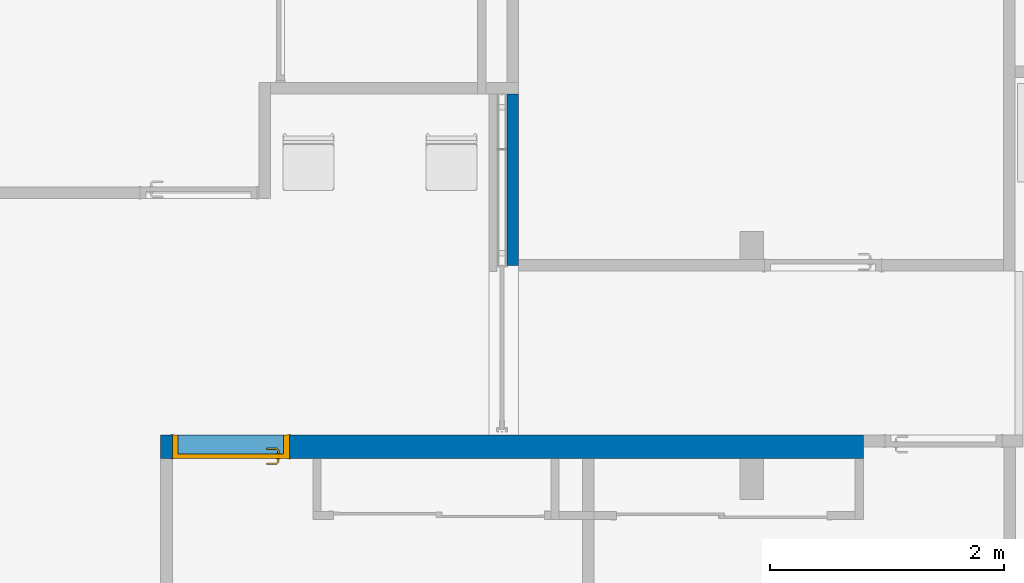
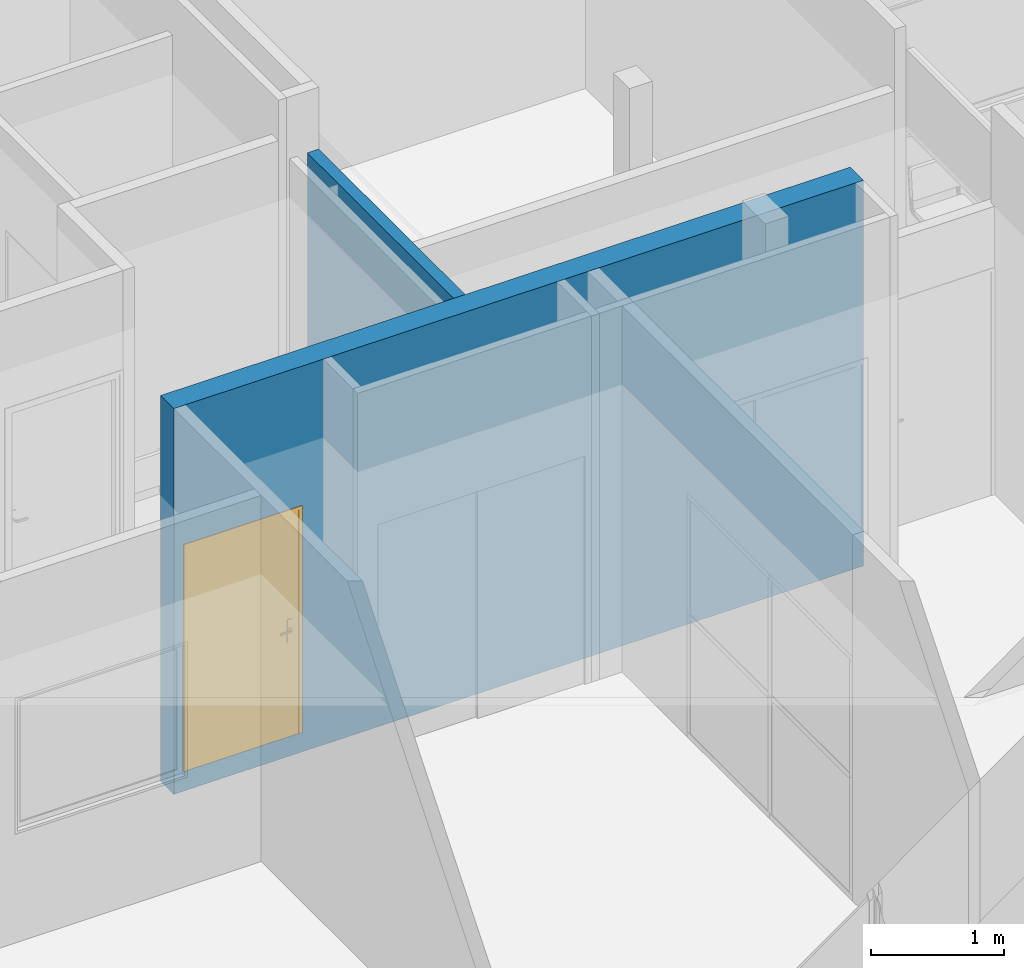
# One storey, part 11 of 32: 2 walls, 1 door, 2 openings.
"""IFC2X3 building model written with IfcOpenShell, lengths in metres."""

import ifcopenshell
import ifcopenshell.guid

model = None  # the IFC model being written
_history = None  # IfcOwnerHistory: only IFC2X3 demands one
_inside = {}  # id of a spatial element -> (the spatial element, [elements in it])
_under = {}  # id of a project, library or spatial element -> (it, [spatial elements below it])
_declared = {}  # id of a project -> (the project, [libraries it declares])
_typed = {}  # id of a type object -> (the type object, [elements of that type])
_made_of = {}  # id of a material, layer set ... -> (it, [elements and type objects made of it])


def new_model(schema):
    """Start an empty IFC model of exactly this schema.

    Asked for "IFC4X3", IfcOpenShell would pick the latest addendum, in which some entities
    have other attributes; the version numbers below select the first issue.
    IFC2X3 requires an IfcOwnerHistory on every rooted entity: one is made here for all.
    """
    global model, _history
    if schema == "IFC4X3":
        model = ifcopenshell.file(schema_version=(4, 3, 0, 0))
    else:
        model = ifcopenshell.file(schema=schema)
    _inside.clear()
    _under.clear()
    _declared.clear()
    _typed.clear()
    _made_of.clear()
    _history = None
    if model.schema == "IFC2X3":
        org = make("IfcOrganization", Name="unknown")
        user = make(
            "IfcPersonAndOrganization",
            ThePerson=make("IfcPerson", FamilyName="unknown"),
            TheOrganization=org,
        )
        app = make(
            "IfcApplication",
            ApplicationDeveloper=org,
            Version="unknown",
            ApplicationFullName="unknown",
            ApplicationIdentifier="unknown",
        )
        _history = make(
            "IfcOwnerHistory",
            OwningUser=user,
            OwningApplication=app,
            ChangeAction="ADDED",
            CreationDate=0,
        )
    return model


def make(cls, **values):
    """One entity of the class cls with the attributes given. An attribute that is None is left unset."""
    return model.create_entity(
        cls, **{name: value for name, value in values.items() if value is not None}
    )


def entity(cls, *values):
    """Any entity or typed value of the class cls, its attributes in the order of the schema. None: left unset."""
    e = model.create_entity(cls)
    for i, value in enumerate(values):
        if value is not None:
            e[i] = value
    return e


def rooted(cls, **values):
    """An entity with a GlobalId (a new one), such as an element, a storey or a relation."""
    return make(cls, GlobalId=ifcopenshell.guid.new(), OwnerHistory=_history, **values)


def si_unit(unit_type, name, prefix=None):
    """IfcSIUnit, for example si_unit("LENGTHUNIT", "METRE", prefix="MILLI")."""
    return make("IfcSIUnit", UnitType=unit_type, Prefix=prefix, Name=name)


def converted_unit(unit_type, name, factor, base, dimensions=None, offset=None):
    """IfcConversionBasedUnit, such as the inch: factor (a typed value) times the base unit."""
    return make(
        "IfcConversionBasedUnit"
        if offset is None
        else "IfcConversionBasedUnitWithOffset",
        ConversionOffset=offset,
        Dimensions=None
        if dimensions is None
        else entity("IfcDimensionalExponents", *dimensions),
        UnitType=unit_type,
        Name=name,
        ConversionFactor=make(
            "IfcMeasureWithUnit", ValueComponent=factor, UnitComponent=base
        ),
    )


def derived_unit(unit_type, elements):
    """IfcDerivedUnit: a product of units, each with its exponent."""
    return make(
        "IfcDerivedUnit",
        Elements=[
            make("IfcDerivedUnitElement", Unit=unit, Exponent=power)
            for unit, power in elements
        ],
        UnitType=unit_type,
    )


def assignment(units):
    """IfcUnitAssignment: the units of a project."""
    return None if units is None else make("IfcUnitAssignment", Units=units)


def point(xyz):
    """IfcCartesianPoint."""
    return None if xyz is None else make("IfcCartesianPoint", Coordinates=xyz)


def direction(xyz):
    """IfcDirection."""
    return None if xyz is None else make("IfcDirection", DirectionRatios=xyz)


def frame(location, z_axis=None, x_axis=None):
    """IfcAxis2Placement3D, a coordinate frame: its origin and axes. An axis left out is left unset."""
    return make(
        "IfcAxis2Placement3D",
        Location=point(location),
        Axis=direction(z_axis),
        RefDirection=direction(x_axis),
    )


def frame_2d(location, x_axis=None):
    """IfcAxis2Placement2D, a coordinate frame in the plane: its origin and x axis."""
    return make(
        "IfcAxis2Placement2D", Location=point(location), RefDirection=direction(x_axis)
    )


def origin():
    """The frame at (0, 0, 0) with its axes left unset."""
    return frame((0.0, 0.0, 0.0))


def place(relative_to, where):
    """IfcLocalPlacement: puts the frame where relative to a parent placement (None: the world)."""
    return make(
        "IfcLocalPlacement", PlacementRelTo=relative_to, RelativePlacement=where
    )


def context(
    kind, dimensions, precision=None, world=None, true_north=None, identifier=None
):
    """IfcGeometricRepresentationContext, for example the 3D "Model" context."""
    return make(
        "IfcGeometricRepresentationContext",
        ContextIdentifier=identifier,
        ContextType=kind,
        CoordinateSpaceDimension=dimensions,
        Precision=precision,
        WorldCoordinateSystem=world,
        TrueNorth=true_north,
    )


def subcontext(parent, identifier, kind, view, scale=None):
    """IfcGeometricRepresentationSubContext, for example "Body" below "Model"."""
    return make(
        "IfcGeometricRepresentationSubContext",
        ContextIdentifier=identifier,
        ContextType=kind,
        ParentContext=parent,
        TargetScale=scale,
        TargetView=view,
    )


def project(units=None, contexts=None):
    """IfcProject with its units and contexts."""
    return rooted(
        "IfcProject",
        Name="project",
        RepresentationContexts=contexts,
        UnitsInContext=assignment(units),
    )


def spatial(cls, under=None, at=None, **own):
    """A site, building, storey or space (cls), placed at a placement, below another one or the project."""
    s = rooted(cls, ObjectPlacement=at, **own)
    if under is not None:
        _under.setdefault(under.id(), (under, []))[1].append(s)
    return s


def polyline(points):
    """IfcPolyline through the points."""
    return make("IfcPolyline", Points=[point(p) for p in points])


def circle_curve(where, radius):
    """IfcCircle in the frame where."""
    return make("IfcCircle", Position=where, Radius=radius)


def parameter(value):
    """IfcParameterValue: where a trimmed curve begins or ends, as a parameter of its basis curve."""
    return model.create_entity("IfcParameterValue", value)


def trimmed(basis, trim1, trim2, sense, master):
    """IfcTrimmedCurve: the piece of a basis curve between two trims."""
    return make(
        "IfcTrimmedCurve",
        BasisCurve=basis,
        Trim1=trim1,
        Trim2=trim2,
        SenseAgreement=sense,
        MasterRepresentation=master,
    )


def segment(curve, same_sense, transition):
    """IfcCompositeCurveSegment."""
    return make(
        "IfcCompositeCurveSegment",
        Transition=transition,
        SameSense=same_sense,
        ParentCurve=curve,
    )


def composite_curve(segments, self_intersect=None):
    """IfcCompositeCurve: segments joined end to end."""
    return make("IfcCompositeCurve", Segments=segments, SelfIntersect=self_intersect)


def profile(cls, at=None, kind="AREA", **sizes):
    """A parametric profile (cls). Its sizes go by their IFC names, for example OverallWidth=200.0."""
    return make(cls, ProfileType=kind, Position=at, **sizes)


def rectangle(**sizes):
    """IfcRectangleProfileDef."""
    return profile("IfcRectangleProfileDef", **sizes)


def outline(outer, holes=None, kind="AREA"):
    """IfcArbitraryClosedProfileDef: a profile drawn as a closed curve; with holes, ...WithVoids."""
    if holes is None:
        return make("IfcArbitraryClosedProfileDef", ProfileType=kind, OuterCurve=outer)
    return make(
        "IfcArbitraryProfileDefWithVoids",
        ProfileType=kind,
        OuterCurve=outer,
        InnerCurves=holes,
    )


def extrude(swept, where, along, depth):
    """IfcExtrudedAreaSolid: the profile swept, set in the frame where, extruded along a direction by depth."""
    return make(
        "IfcExtrudedAreaSolid",
        SweptArea=swept,
        Position=where,
        ExtrudedDirection=direction(along),
        Depth=depth,
    )


def faces_of(points, faces, orient=None, outer=None):
    """IfcFace entities. A face is a list of loops; a loop is a list of indices into points, from 0.

    orient and outer hold one flag for each loop. By default every Orientation is true, the
    first loop of a face is its IfcFaceOuterBound and the others are IfcFaceBound.
    """
    made = []
    for i, loops in enumerate(faces):
        bounds = []
        for j, loop in enumerate(loops):
            is_outer = j == 0 if outer is None else outer[i][j]
            bounds.append(
                make(
                    "IfcFaceOuterBound" if is_outer else "IfcFaceBound",
                    Bound=make("IfcPolyLoop", Polygon=[points[k] for k in loop]),
                    Orientation=True if orient is None else orient[i][j],
                )
            )
        made.append(make("IfcFace", Bounds=bounds))
    return made


def faceted_brep(points, faces, orient=None, outer=None, voids=None):
    """IfcFacetedBrep: a solid bounded by flat faces; with voids (closed shells), ...WithVoids."""
    shared = [point(p) for p in points]
    hull = make("IfcClosedShell", CfsFaces=faces_of(shared, faces, orient, outer))
    if voids is None:
        return make("IfcFacetedBrep", Outer=hull)
    return make(
        "IfcFacetedBrepWithVoids",
        Outer=hull,
        Voids=[
            make(cls, CfsFaces=faces_of(shared, fs, o, b)) for cls, fs, o, b in voids
        ],
    )


def shape(context_of_items, identifier, shape_type, items):
    """IfcShapeRepresentation: the items that make up one representation, for example the "Body"."""
    return make(
        "IfcShapeRepresentation",
        ContextOfItems=context_of_items,
        RepresentationIdentifier=identifier,
        RepresentationType=shape_type,
        Items=items,
    )


def source(mapping_origin, context_of_items, identifier, shape_type, items):
    """IfcRepresentationMap: a shape defined once, which mapped items show again and again."""
    return make(
        "IfcRepresentationMap",
        MappingOrigin=mapping_origin,
        MappedRepresentation=shape(context_of_items, identifier, shape_type, items),
    )


def transform(
    local_origin,
    x_axis=None,
    y_axis=None,
    z_axis=None,
    scale=None,
    scale2=None,
    scale3=None,
    uniform=True,
):
    """IfcCartesianTransformationOperator3D, or its non-uniform kind. x_axis, y_axis, z_axis: its Axis1, 2, 3."""
    if uniform:
        return make(
            "IfcCartesianTransformationOperator3D",
            Axis1=direction(x_axis),
            Axis2=direction(y_axis),
            LocalOrigin=point(local_origin),
            Scale=scale,
            Axis3=direction(z_axis),
        )
    return make(
        "IfcCartesianTransformationOperator3DnonUniform",
        Axis1=direction(x_axis),
        Axis2=direction(y_axis),
        LocalOrigin=point(local_origin),
        Scale=scale,
        Axis3=direction(z_axis),
        Scale2=scale2,
        Scale3=scale3,
    )


def mapped(mapping_source, mapping_target):
    """IfcMappedItem: shows the shape of a source again, moved by a transform."""
    return make(
        "IfcMappedItem", MappingSource=mapping_source, MappingTarget=mapping_target
    )


def material(Name=None, Category=None):
    """IfcMaterial."""
    return make("IfcMaterial", Name=Name, Category=Category)


def material_list(materials):
    """IfcMaterialList."""
    return make("IfcMaterialList", Materials=materials)


def layer(
    of_material, thickness, ventilated=None, Name=None, Category=None, Priority=None
):
    """IfcMaterialLayer: one layer of a wall or slab, of a material (None: an air gap)."""
    return make(
        "IfcMaterialLayer",
        Material=of_material,
        LayerThickness=thickness,
        IsVentilated=ventilated,
        Name=Name,
        Category=Category,
        Priority=Priority,
    )


def layer_set(layers, Name=None):
    """IfcMaterialLayerSet."""
    return make("IfcMaterialLayerSet", MaterialLayers=layers, LayerSetName=Name)


def layer_usage(for_layer_set, set_direction, sense, offset, extent=None):
    """IfcMaterialLayerSetUsage: how a layer set lies in its element."""
    return make(
        "IfcMaterialLayerSetUsage",
        ForLayerSet=for_layer_set,
        LayerSetDirection=set_direction,
        DirectionSense=sense,
        OffsetFromReferenceLine=offset,
        ReferenceExtent=extent,
    )


def made_of(thing, what):
    """Note that an element or type object is made of a material, layer set ...; save() writes the relation."""
    if what is not None:
        _made_of.setdefault(what.id(), (what, []))[1].append(thing)
    return thing


def type_object(cls, material=None, **own):
    """A type object (cls), such as IfcWallType, which elements share."""
    return made_of(rooted(cls, **own), material)


def type_shapes(of_type, sources):
    """Give a type object the sources (RepresentationMaps) that its elements show as mapped items."""
    of_type.RepresentationMaps = sources


def element(
    cls,
    number,
    at=None,
    inside=None,
    cuts=None,
    type_object=None,
    material=None,
    context=None,
    identifier="Body",
    shape_type=None,
    held_by="IfcProductDefinitionShape",
    body=None,
    shapes=None,
    **own,
):
    """One element of the class cls, such as IfcWall. Its Tag is "e" and its number.

    at: its placement. inside: the storey or other place that contains it. cuts: it is an
    opening in that element (IfcRelVoidsElement). A single representation is given by context,
    identifier, shape_type and body (its items); several are given by shapes. held_by: the class
    of the entity that holds the representations. save() writes the other relations.
    """
    e = rooted(cls, Tag="e%d" % number, ObjectPlacement=at, **own)
    if body is not None:
        shapes = [shape(context, identifier, shape_type, body)]
    if shapes is not None:
        e.Representation = make(held_by, Representations=shapes)
    if inside is not None:
        _inside.setdefault(inside.id(), (inside, []))[1].append(e)
    if cuts is not None:
        rooted(
            "IfcRelVoidsElement", RelatingBuildingElement=cuts, RelatedOpeningElement=e
        )
    if type_object is not None:
        _typed.setdefault(type_object.id(), (type_object, []))[1].append(e)
    return made_of(e, material)


def fill(opening, filler):
    """IfcRelFillsElement: the door or window that sits in an opening."""
    return rooted(
        "IfcRelFillsElement",
        RelatingOpeningElement=opening,
        RelatedBuildingElement=filler,
    )


def aggregate(whole, parts):
    """IfcRelAggregates: a whole, such as a stair, and the parts it consists of."""
    return rooted("IfcRelAggregates", RelatingObject=whole, RelatedObjects=parts)


def save(model, path):
    """Write the relations noted so far, then the file.

    IfcRelAggregates (storeys below a building ...), IfcRelContainedInSpatialStructure (elements
    in a storey), IfcRelDefinesByType, IfcRelAssociatesMaterial and IfcRelDeclares: one each for
    every whole, place, type object, material and project.
    """
    for whole, parts in _under.values():
        aggregate(whole, parts)
    for where, things in _inside.values():
        rooted(
            "IfcRelContainedInSpatialStructure",
            RelatedElements=things,
            RelatingStructure=where,
        )
    for kind, things in _typed.values():
        rooted("IfcRelDefinesByType", RelatedObjects=things, RelatingType=kind)
    for what, things in _made_of.values():
        rooted("IfcRelAssociatesMaterial", RelatedObjects=things, RelatingMaterial=what)
    for by, libraries in _declared.values():
        rooted("IfcRelDeclares", RelatingContext=by, RelatedDefinitions=libraries)
    model.write(path)


model = new_model("IFC2X3")

# Units and contexts
model_context = context("Model", 3, precision=1e-05, world=origin(), true_north=direction((6.12303176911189e-17, 1.0)))
plan_context = context("Plan", 3, precision=1e-05, world=origin(), true_north=direction((6.12303176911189e-17, 1.0)))
body_context = subcontext(model_context, "Body", "Model", "MODEL_VIEW")
ifc_project = project(units=[si_unit("LENGTHUNIT", "METRE"), si_unit("AREAUNIT", "SQUARE_METRE"), si_unit("VOLUMEUNIT", "CUBIC_METRE"), converted_unit("PLANEANGLEUNIT", "DEGREE", entity("IfcRatioMeasure", 0.0174532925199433), si_unit("PLANEANGLEUNIT", "RADIAN"), dimensions=[0, 0, 0, 0, 0, 0, 0]), si_unit("MASSUNIT", "GRAM", prefix="KILO"), derived_unit("MASSDENSITYUNIT", [(si_unit("MASSUNIT", "GRAM", prefix="KILO"), 1), (si_unit("LENGTHUNIT", "METRE"), -3)]), derived_unit("MOMENTOFINERTIAUNIT", [(si_unit("LENGTHUNIT", "METRE"), 4)]), si_unit("TIMEUNIT", "SECOND"), si_unit("FREQUENCYUNIT", "HERTZ"), si_unit("THERMODYNAMICTEMPERATUREUNIT", "DEGREE_CELSIUS"), derived_unit("THERMALTRANSMITTANCEUNIT", [(si_unit("MASSUNIT", "GRAM", prefix="KILO"), 1), (si_unit("THERMODYNAMICTEMPERATUREUNIT", "KELVIN"), -1), (si_unit("TIMEUNIT", "SECOND"), -3)]), derived_unit("VOLUMETRICFLOWRATEUNIT", [(si_unit("LENGTHUNIT", "METRE"), 3), (si_unit("TIMEUNIT", "SECOND"), -1)]), si_unit("ELECTRICCURRENTUNIT", "AMPERE"), si_unit("ELECTRICVOLTAGEUNIT", "VOLT"), si_unit("POWERUNIT", "WATT"), si_unit("FORCEUNIT", "NEWTON", prefix="KILO"), si_unit("ILLUMINANCEUNIT", "LUX"), si_unit("LUMINOUSFLUXUNIT", "LUMEN"), si_unit("LUMINOUSINTENSITYUNIT", "CANDELA"), derived_unit("USERDEFINED", [(si_unit("MASSUNIT", "GRAM", prefix="KILO"), -1), (si_unit("LENGTHUNIT", "METRE"), -2), (si_unit("TIMEUNIT", "SECOND"), 3), (si_unit("LUMINOUSFLUXUNIT", "LUMEN"), 1)]), derived_unit("LINEARVELOCITYUNIT", [(si_unit("LENGTHUNIT", "METRE"), 1), (si_unit("TIMEUNIT", "SECOND"), -1)]), si_unit("PRESSUREUNIT", "PASCAL"), derived_unit("USERDEFINED", [(si_unit("LENGTHUNIT", "METRE"), -2), (si_unit("MASSUNIT", "GRAM", prefix="KILO"), 1), (si_unit("TIMEUNIT", "SECOND"), -2)]), derived_unit("LINEARFORCEUNIT", [(si_unit("MASSUNIT", "GRAM", prefix="KILO"), 1), (si_unit("LENGTHUNIT", "METRE"), 1), (si_unit("TIMEUNIT", "SECOND"), -2), (si_unit("LENGTHUNIT", "METRE"), -1)]), derived_unit("PLANARFORCEUNIT", [(si_unit("MASSUNIT", "GRAM", prefix="KILO"), 1), (si_unit("LENGTHUNIT", "METRE"), 1), (si_unit("TIMEUNIT", "SECOND"), -2), (si_unit("LENGTHUNIT", "METRE"), -2)])], contexts=[model_context, plan_context])

# Site, building, storey
site_placement = place(None, origin())
site = spatial("IfcSite", under=ifc_project, at=site_placement, Name="Default", CompositionType="ELEMENT")
building_placement = place(site_placement, origin())
building = spatial("IfcBuilding", under=site, at=building_placement, CompositionType="ELEMENT")
storey_placement = place(building_placement, origin())
storey = spatial("IfcBuildingStorey", under=building, at=storey_placement, Name="0 Mairie RDC 0.00", CompositionType="ELEMENT", Elevation=-1.94916083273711e-14)

# Wall, opening
ifc_material_1 = material(Name="Plâtre")
ifc_layer_1 = layer(ifc_material_1, 0.0125)
ifc_layer_2 = layer(ifc_material_1, 0.0125)
ifc_material_2 = material(Name="Maçonnerie - Isolant")
ifc_layer_3 = layer(ifc_material_2, 0.05)
ifc_layer_4 = layer(ifc_material_1, 0.0125)
ifc_layer_5 = layer(ifc_material_1, 0.0125)
ifc_layer_set_1 = layer_set([ifc_layer_1, ifc_layer_2, ifc_layer_3, ifc_layer_4, ifc_layer_5], Name="Mur de base:A cloison placostil 98 sèche")
ifc_layer_usage_1 = layer_usage(ifc_layer_set_1, "AXIS2", "NEGATIVE", 0.05)
wall_type_1 = type_object("IfcWallType", Name="Murs : Mur de base : A cloison placostil 98 sèche", PredefinedType="STANDARD", material=ifc_layer_set_1)
wall_1_placement = place(storey_placement, frame((-13.9967760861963, -5.11992192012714, 0.0), z_axis=(0.0, 0.0, 1.0), x_axis=(0.0, -1.0, 0.0)))
wall_1 = element("IfcWallStandardCase", 1, at=wall_1_placement, inside=storey, type_object=wall_type_1, material=ifc_layer_usage_1, Name="Murs : Mur de base : A cloison placostil 98 sèche", ObjectType="Mur de base:A cloison placostil 98 sèche", context=body_context, shape_type="SweptSolid", body=[
    extrude(rectangle(XDim=2.91286478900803, YDim=0.0999999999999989, at=frame_2d((1.45643239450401, 9.85322934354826e-16), x_axis=(-1.0, 0.0))), origin(), (0.0, 0.0, 1.0), 2.8),
])
opening_1_placement = place(wall_1_placement, origin())
element("IfcOpeningElement", 2, at=opening_1_placement, cuts=wall_1, Name="Mur de base:A cloison placostil 98 sèche", ObjectType="Opening", context=body_context, shape_type="SweptSolid", body=[
    extrude(rectangle(XDim=2.11999999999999, YDim=1.45025266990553, at=frame_2d((-5.55111512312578e-16, 4.44089209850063e-16), x_axis=(0.0, 1.0))), frame((2.18773845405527, 0.0500000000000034, 1.05999999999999), z_axis=(0.0, -1.0, 0.0), x_axis=(1.0, 0.0, 0.0)), (0.0, 0.0, 1.0), 0.1),
])

# Wall, opening, door
ifc_material_3 = material(Name="Béton, coulé sur place")
ifc_layer_6 = layer(ifc_material_3, 0.2)
ifc_layer_set_2 = layer_set([ifc_layer_6], Name="Mur de base:A Ext. Voile BA 20")
ifc_layer_usage_2 = layer_usage(ifc_layer_set_2, "AXIS2", "NEGATIVE", 0.1)
wall_type_2 = type_object("IfcWallType", Name="Murs : Mur de base : A Ext. Voile BA 20", PredefinedType="STANDARD", material=ifc_layer_set_2)
wall_2_placement = place(storey_placement, frame((-17.0054461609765, -8.13276374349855, -0.18)))
wall_2 = element("IfcWallStandardCase", 3, at=wall_2_placement, inside=storey, type_object=wall_type_2, material=ifc_layer_usage_2, Name="Murs : Mur de base : A Ext. Voile BA 20", ObjectType="Mur de base:A Ext. Voile BA 20", context=body_context, shape_type="SweptSolid", body=[
    extrude(rectangle(XDim=6.00233752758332, YDim=0.2, at=frame_2d((3.00116876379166, -4.16333634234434e-17), x_axis=(-1.0, 0.0))), origin(), (0.0, 0.0, 1.0), 3.55),
])
opening_2_placement = place(wall_2_placement, frame((1.1, 0.0999999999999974, 0.179999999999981)))
opening_2 = element("IfcOpeningElement", 4, at=opening_2_placement, cuts=wall_2, Name="Portes : Int. Simple : PP (0.89m x 2.04m):1", ObjectType="Opening", context=body_context, shape_type="SweptSolid", body=[
    extrude(rectangle(XDim=2.075, YDim=1.0, at=frame_2d((1.0375, 0.5), x_axis=(1.0, 0.0))), frame((0.0, 0.0, 0.0), z_axis=(0.0, -1.0, 0.0), x_axis=(0.0, 0.0, 1.0)), (0.0, 0.0, 1.0), 0.2),
])
ifc_material_4 = material(Name="Finition Peinture - Blanc satiné")
ifc_material_5 = material(Name="Bois - Cadre de porte")
ifc_material_list_1 = material_list([ifc_material_4, ifc_material_5])
ifc_material_6 = material(Name="Bois - Panneau de porte")
ifc_material_list_2 = material_list([ifc_material_6, ifc_material_4, ifc_material_5])
door_style = type_object("IfcDoorStyle", Name="Portes : Int. Simple : PP (0.89m x 2.04m)", ConstructionType="NOTDEFINED", OperationType="NOTDEFINED", ParameterTakesPrecedence=False, Sizeable=False, material=ifc_material_list_2)
shared_shape = source(origin(), body_context, "Body", "SolidModel", [
    extrude(outline(composite_curve([segment(polyline([(-0.104999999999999, -0.02), (0.104999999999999, -0.0199999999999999)]), True, "CONTINUOUS"), segment(trimmed(circle_curve(frame_2d((0.0703589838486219, 0.0), x_axis=(0.0, 1.0)), 0.0399999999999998), [parameter(240.000000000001)], [parameter(300.0)], True, "PARAMETER"), True, "CONTINUOUS"), segment(polyline([(0.104999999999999, 0.0199999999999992), (-0.105, 0.0200000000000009)]), True, "CONTINUOUS"), segment(trimmed(circle_curve(frame_2d((-0.0703589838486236, 0.0), x_axis=(0.0, 1.0)), 0.0399999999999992), [parameter(59.9999999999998)], [parameter(120.0)], True, "PARAMETER"), True, "CONTINUOUS")], self_intersect=False)), frame((0.975000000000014, 0.0, 0.975000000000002), z_axis=(0.0, -1.0, 0.0), x_axis=(0.0, 0.0, 1.0)), (0.0, 0.0, 1.0), 0.00499999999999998),
    extrude(outline(composite_curve([segment(polyline([(-0.105, -0.02), (0.105, -0.02)]), True, "CONTINUOUS"), segment(trimmed(circle_curve(frame_2d((0.0703589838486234, 0.0), x_axis=(0.0, -1.0)), 0.0399999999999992), [parameter(59.9999999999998)], [parameter(120.0)], True, "PARAMETER"), True, "CONTINUOUS"), segment(polyline([(0.104999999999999, 0.0200000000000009), (-0.105, 0.0199999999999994)]), True, "CONTINUOUS"), segment(trimmed(circle_curve(frame_2d((-0.0703589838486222, 0.0), x_axis=(0.0, -1.0)), 0.0399999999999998), [parameter(240.0)], [parameter(300.0)], True, "PARAMETER"), True, "CONTINUOUS")], self_intersect=False)), frame((0.975000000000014, 0.0449999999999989, 0.975000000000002), z_axis=(0.0, -1.0, 0.0), x_axis=(0.0, 0.0, -1.0)), (0.0, 0.0, 1.0), 0.00500000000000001),
    extrude(rectangle(XDim=0.93, YDim=0.04, at=frame_2d((0.0, -1.38777878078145e-17), x_axis=(1.0, 0.0))), frame((0.570000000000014, 0.02, 0.0), z_axis=(0.0, 0.0, 1.0), x_axis=(-1.0, 0.0, 0.0)), (0.0, 0.0, 1.0), 2.04),
    extrude(outline(polyline([(0.484999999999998, -1.03750000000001), (0.514999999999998, -1.03750000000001), (0.514999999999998, 1.0525), (-0.514999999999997, 1.0525), (-0.514999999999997, -1.0375), (-0.484999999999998, -1.03750000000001), (-0.484999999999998, 1.02250000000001), (0.484999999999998, 1.02250000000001), (0.484999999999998, -1.03750000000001)])), frame((0.570000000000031, 0.205000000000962, 1.03750000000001), z_axis=(0.0, -1.0, 0.0), x_axis=(1.0, 0.0, 0.0)), (0.0, 0.0, 1.0), 0.00499999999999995),
    extrude(outline(polyline([(0.484999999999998, -1.03750000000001), (0.514999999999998, -1.03750000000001), (0.514999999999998, 1.0525), (-0.514999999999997, 1.0525), (-0.514999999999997, -1.0375), (-0.484999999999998, -1.03750000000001), (-0.484999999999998, 1.02250000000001), (0.484999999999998, 1.02250000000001), (0.484999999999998, -1.03750000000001)])), frame((0.570000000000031, 0.0, 1.03750000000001), z_axis=(0.0, -1.0, 0.0), x_axis=(1.0, 0.0, 0.0)), (0.0, 0.0, 1.0), 0.00500000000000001),
    faceted_brep([(0.972974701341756, -0.00500000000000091, 1.00778044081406), (0.977025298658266, -0.00500000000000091, 1.00778044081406), (0.981000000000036, -0.00500000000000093, 1.00699999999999), (0.981000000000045, -0.00500000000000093, 0.992999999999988), (0.977025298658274, -0.00500000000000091, 0.99221955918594), (0.972974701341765, -0.00500000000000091, 0.992219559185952), (0.968999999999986, -0.00500000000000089, 0.993000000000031), (0.968999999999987, -0.00500000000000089, 1.007), (0.977025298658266, -0.0310045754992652, 1.00778044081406), (0.981000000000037, -0.0326509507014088, 1.007), (0.972974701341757, -0.0293267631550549, 1.00778044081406), (0.959298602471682, -0.0430028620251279, 1.00778044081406), (0.960976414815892, -0.0470534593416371, 1.00778044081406), (0.968999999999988, -0.0276803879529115, 1.007), (0.968999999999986, -0.0276803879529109, 0.993000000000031), (0.972974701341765, -0.0293267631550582, 0.992219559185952), (0.977025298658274, -0.0310045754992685, 0.99221955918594), (0.960976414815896, -0.0470534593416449, 0.99221955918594), (0.959298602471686, -0.0430028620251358, 0.992219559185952), (0.981000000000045, -0.0326509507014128, 0.992999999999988), (0.962622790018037, -0.051028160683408, 1.007), (0.957652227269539, -0.0390281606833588, 1.007), (0.957652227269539, -0.0390281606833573, 0.993000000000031), (0.96262279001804, -0.0510281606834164, 0.992999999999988), (0.874981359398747, -0.0510281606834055, 1.007), (0.874981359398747, -0.0470534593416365, 1.00778044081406), (0.874981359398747, -0.0430028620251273, 1.00778044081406), (0.874981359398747, -0.0390281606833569, 1.00699999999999), (0.874981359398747, -0.0390281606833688, 0.993000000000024), (0.874981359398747, -0.0430028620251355, 0.992219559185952), (0.874981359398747, -0.0470534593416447, 0.99221955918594), (0.874981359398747, -0.0510281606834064, 0.992999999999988), (0.917139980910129, -0.045028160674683, 1.0078786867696), (0.922692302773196, -0.051028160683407, 1.007), (0.916316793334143, -0.039028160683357, 1.007), (0.916316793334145, -0.0390281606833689, 0.993000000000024), (0.917139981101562, -0.0450281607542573, 0.992121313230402), (0.922692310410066, -0.0510281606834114, 0.992999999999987)], [[[0, 1, 2, 3, 4, 5, 6, 7]], [[2, 1, 8, 9]], [[1, 0, 10, 11, 12, 8]], [[0, 7, 13, 10]], [[14, 13, 7, 6]], [[5, 15, 14, 6]], [[5, 4, 16, 17, 18, 15]], [[3, 19, 16, 4]], [[9, 19, 3, 2]], [[9, 8, 12, 20]], [[10, 13, 21, 11]], [[22, 21, 13, 14]], [[14, 15, 18, 22]], [[16, 19, 23, 17]], [[20, 23, 19, 9]], [[24, 25, 26, 27, 28, 29, 30, 31]], [[32, 25, 33]], [[33, 25, 24]], [[33, 20, 12]], [[11, 34, 32]], [[34, 11, 21]], [[27, 26, 34]], [[32, 26, 25]], [[32, 34, 26]], [[32, 33, 12]], [[11, 32, 12]], [[21, 22, 35, 28, 27, 34]], [[36, 29, 35]], [[30, 36, 37]], [[18, 35, 22]], [[29, 28, 35]], [[30, 37, 31]], [[37, 17, 23]], [[36, 17, 37]], [[36, 18, 17]], [[36, 35, 18]], [[29, 36, 30]], [[23, 20, 33, 24, 31, 37]]]),
    faceted_brep([(0.972974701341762, 0.0449999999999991, 0.992219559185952), (0.977025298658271, 0.0449999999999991, 0.99221955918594), (0.981000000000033, 0.044999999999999, 0.992999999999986), (0.981000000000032, 0.044999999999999, 1.007), (0.977025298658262, 0.0449999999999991, 1.00778044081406), (0.972974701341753, 0.0449999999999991, 1.00778044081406), (0.968999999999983, 0.0449999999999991, 1.007), (0.968999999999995, 0.0449999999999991, 0.993000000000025), (0.968999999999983, 0.067485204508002, 1.007), (0.968999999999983, 0.0674852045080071, 0.993000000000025), (0.972974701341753, 0.0691315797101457, 1.00778044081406), (0.977025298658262, 0.070809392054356, 1.00778044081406), (0.960838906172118, 0.0869957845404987, 1.00778044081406), (0.959161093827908, 0.0829451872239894, 1.00778044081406), (0.981000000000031, 0.0724557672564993, 1.007), (0.981000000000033, 0.0724557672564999, 0.992999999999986), (0.977025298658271, 0.0708093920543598, 0.99221955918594), (0.972974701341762, 0.0691315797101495, 0.992219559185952), (0.959161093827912, 0.0829451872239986, 0.992219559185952), (0.960838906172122, 0.0869957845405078, 0.99221955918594), (0.957514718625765, 0.0789704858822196, 1.007), (0.957514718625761, 0.0789704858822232, 0.993000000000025), (0.962485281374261, 0.0909704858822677, 1.007), (0.962485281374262, 0.0909704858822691, 0.992999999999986), (0.874954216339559, 0.0829451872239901, 1.00778044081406), (0.874954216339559, 0.0869957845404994, 1.00778044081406), (0.874954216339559, 0.0909704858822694, 1.007), (0.874954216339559, 0.0909704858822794, 0.992999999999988), (0.874954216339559, 0.086995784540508, 0.99221955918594), (0.874954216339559, 0.0829451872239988, 0.992219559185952), (0.874954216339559, 0.0789704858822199, 0.993000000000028), (0.874954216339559, 0.0789704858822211, 1.007), (0.916234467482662, 0.0789704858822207, 1.007), (0.916234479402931, 0.0789704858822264, 0.993000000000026), (0.917057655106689, 0.0849704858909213, 1.0078786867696), (0.922554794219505, 0.0909704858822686, 1.007), (0.922554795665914, 0.0909704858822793, 0.992999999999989), (0.917057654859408, 0.0849704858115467, 0.992121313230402)], [[[0, 1, 2, 3, 4, 5, 6, 7]], [[8, 9, 7, 6]], [[5, 10, 8, 6]], [[5, 4, 11, 12, 13, 10]], [[3, 14, 11, 4]], [[14, 3, 2, 15]], [[2, 1, 16, 15]], [[1, 0, 17, 18, 19, 16]], [[0, 7, 9, 17]], [[20, 21, 9, 8]], [[8, 10, 13, 20]], [[14, 22, 12, 11]], [[23, 22, 14, 15]], [[15, 16, 19, 23]], [[17, 9, 21, 18]], [[24, 25, 26, 27, 28, 29, 30, 31]], [[21, 20, 32, 31, 30, 33]], [[34, 24, 32]], [[25, 34, 35]], [[13, 32, 20]], [[24, 31, 32]], [[25, 35, 26]], [[35, 12, 22]], [[34, 12, 35]], [[34, 13, 12]], [[34, 32, 13]], [[24, 34, 25]], [[22, 23, 36, 27, 26, 35]], [[37, 28, 36]], [[36, 28, 27]], [[36, 23, 19]], [[18, 33, 37]], [[33, 18, 21]], [[30, 29, 33]], [[37, 29, 28]], [[37, 33, 29]], [[37, 36, 19]], [[18, 37, 19]]]),
    faceted_brep([(1.07000000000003, 0.0, 0.0), (1.03500000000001, 0.0, 0.0), (1.03500000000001, 0.040000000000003, 0.0), (1.02000000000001, 0.040000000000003, 0.0), (1.02000000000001, 0.200000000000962, 0.0), (1.07000000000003, 0.200000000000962, 0.0), (1.07000000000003, 0.200000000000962, 2.07500000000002), (1.07000000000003, 0.0, 2.07500000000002), (1.02000000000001, 0.200000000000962, 2.025), (0.120000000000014, 0.200000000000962, 2.025), (0.120000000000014, 0.200000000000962, 0.0), (0.0699999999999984, 0.200000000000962, 0.0), (0.0699999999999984, 0.200000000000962, 2.07500000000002), (1.02000000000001, 0.040000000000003, 2.025), (1.03500000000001, 0.040000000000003, 2.04), (0.105000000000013, 0.040000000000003, 2.04), (0.105000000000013, 0.040000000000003, 0.0), (0.120000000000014, 0.040000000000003, 0.0), (0.120000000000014, 0.040000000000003, 2.025), (1.03500000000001, 0.0, 2.04), (0.0699999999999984, 0.0, 2.07500000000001), (0.0699999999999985, 0.0, 0.0), (0.105000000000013, 0.0, 0.0), (0.105000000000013, 0.0, 2.04)], [[[0, 1, 2, 3, 4, 5]], [[5, 6, 7, 0]], [[4, 8, 9, 10, 11, 12, 6, 5]], [[3, 13, 8, 4]], [[2, 14, 15, 16, 17, 18, 13, 3]], [[1, 19, 14, 2]], [[0, 7, 20, 21, 22, 23, 19, 1]], [[12, 11, 21, 20]], [[21, 11, 10, 17, 16, 22]], [[18, 17, 10, 9]], [[23, 22, 16, 15]], [[6, 12, 20, 7]], [[13, 18, 9, 8]], [[19, 23, 15, 14]]]),
])
type_shapes(door_style, [shared_shape])
door_placement = place(opening_2_placement, frame((-1.07000000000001, -0.199999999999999, 0.0)))
door = element("IfcDoor", 5, at=door_placement, inside=storey, type_object=door_style, material=ifc_material_list_1, Name="Portes : Int. Simple : PP (0.89m x 2.04m)", ObjectType="Int. Simple:PP (0.89m x 2.04m)", OverallHeight=2.075, OverallWidth=1.0, context=body_context, shape_type="MappedRepresentation", body=[
    mapped(shared_shape, transform((0.0, 0.0, 0.0), scale=1.0)),
])
fill(opening_2, door)

save(model, "model.ifc")
